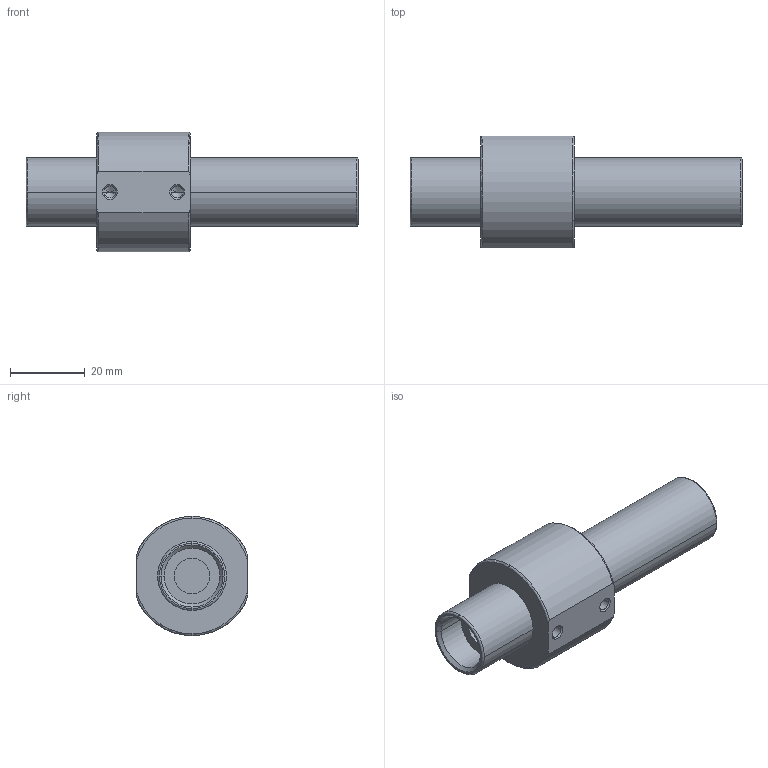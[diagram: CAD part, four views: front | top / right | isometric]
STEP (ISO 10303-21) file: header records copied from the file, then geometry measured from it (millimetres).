
FILE_DESCRIPTION (( 'STEP AP214' ), '1' );
FILE_NAME ('MT33.STEP', '2025-01-29T19:52:38', ( '' ), ( '' ), 'SwSTEP 2.0', 'SolidWorks 2018', '' );
FILE_SCHEMA (( 'AUTOMOTIVE_DESIGN' ));
Length unit declared in the file: millimetre
Products named in the file (1): MT33
Bounding box: 89 x 30 x 32 mm (x, y, z)
Volume: 31733.6 mm3; surface area: 9514.2 mm2
Topology: 1 solids, 1 shells, 67 faces, 150 edges, 92 vertices
Faces by surface type: cylinder 24, cone 18, plane 13, torus 12
Entity records: 2004 total; most frequent: CARTESIAN_POINT 430, DIRECTION 364, ORIENTED_EDGE 292, AXIS2_PLACEMENT_3D 158, EDGE_CURVE 146, VERTEX_POINT 92, CIRCLE 90, EDGE_LOOP 78
